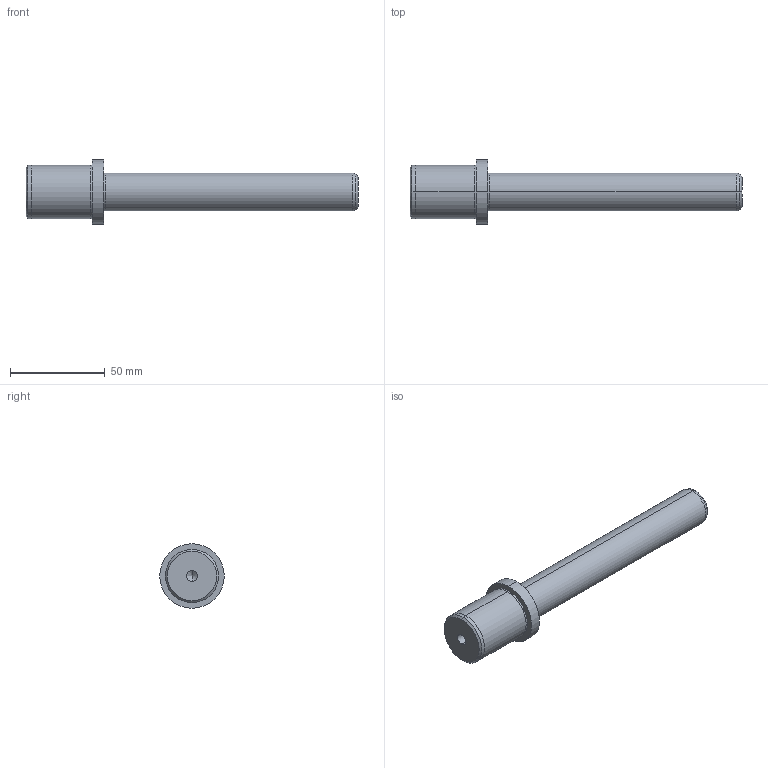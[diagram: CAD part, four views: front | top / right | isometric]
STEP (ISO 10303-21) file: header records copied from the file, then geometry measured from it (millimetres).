
FILE_DESCRIPTION( ( 'STEP AP203' ), '1' );
FILE_NAME( 'D:/Delta 3 D/D05/D05 - 20x140x35.step', '2002-12-31T22:31:07', ( ' ' ), ( ' ' ), 'XStep 1.0', ' ', ' ' );
FILE_SCHEMA( ( 'CONFIG_CONTROL_DESIGN' ) );
Length unit declared in the file: metre
Products named in the file (1): 1
Bounding box: 175 x 34 x 34 mm (x, y, z)
Volume: 68589.4 mm3; surface area: 14115.8 mm2
Topology: 1 solids, 1 shells, 29 faces, 58 edges, 35 vertices
Faces by surface type: revolution 20, bspline 9
Entity records: 855 total; most frequent: CARTESIAN_POINT 218, ORIENTED_EDGE 112, DIRECTION 110, EDGE_CURVE 56, AXIS2_PLACEMENT_3D 35, EDGE_LOOP 35, VERTEX_POINT 35, CIRCLE 34
